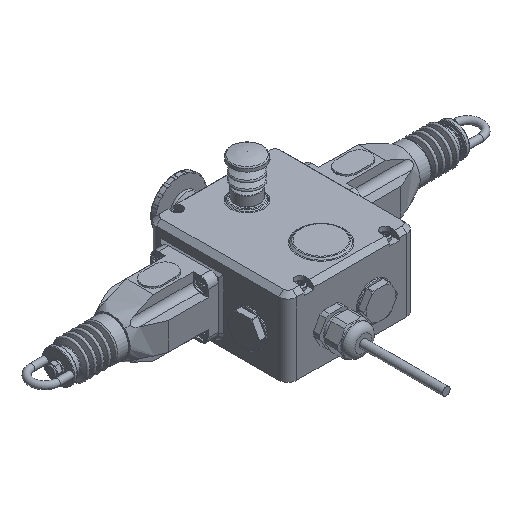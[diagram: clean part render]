
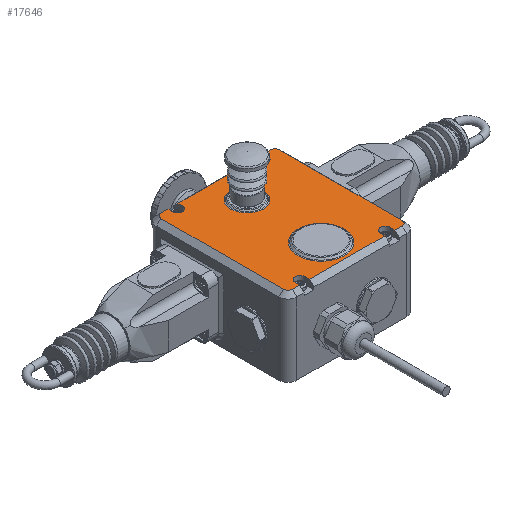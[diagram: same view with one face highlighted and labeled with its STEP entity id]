
A CAD part, isometric view. The second image highlights one B-rep face of the part: STEP entity #17646.
In plain terms, the highlighted planar face has unit normal (0, 0, 1).
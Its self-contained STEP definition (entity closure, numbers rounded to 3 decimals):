
#434=LINE('',#24647,#1388);
#440=LINE('',#24661,#1394);
#442=LINE('',#24665,#1396);
#448=LINE('',#24679,#1402);
#511=LINE('',#24881,#1465);
#515=LINE('',#24891,#1469);
#518=LINE('',#24899,#1472);
#521=LINE('',#24907,#1475);
#522=LINE('',#24915,#1476);
#523=LINE('',#24917,#1477);
#524=LINE('',#24921,#1478);
#525=LINE('',#24922,#1479);
#526=LINE('',#24926,#1480);
#527=LINE('',#24927,#1481);
#528=LINE('',#24931,#1482);
#529=LINE('',#24932,#1483);
#1388=VECTOR('',#20299,1000.);
#1394=VECTOR('',#20307,1000.);
#1396=VECTOR('',#20311,1000.);
#1402=VECTOR('',#20319,1000.);
#1465=VECTOR('',#20486,1000.);
#1469=VECTOR('',#20496,1000.);
#1472=VECTOR('',#20505,1000.);
#1475=VECTOR('',#20514,1000.);
#1476=VECTOR('',#20525,1000.);
#1477=VECTOR('',#20526,1000.);
#1478=VECTOR('',#20529,1000.);
#1479=VECTOR('',#20530,1000.);
#1480=VECTOR('',#20533,1000.);
#1481=VECTOR('',#20534,1000.);
#1482=VECTOR('',#20537,1000.);
#1483=VECTOR('',#20538,1000.);
#2235=PLANE('',#18600);
#3259=ORIENTED_EDGE('',*,*,#6728,.T.);
#3260=ORIENTED_EDGE('',*,*,#6729,.T.);
#3261=ORIENTED_EDGE('',*,*,#6730,.F.);
#3262=ORIENTED_EDGE('',*,*,#6602,.T.);
#3263=ORIENTED_EDGE('',*,*,#6727,.T.);
#3264=ORIENTED_EDGE('',*,*,#6713,.T.);
#3265=ORIENTED_EDGE('',*,*,#6716,.T.);
#3266=ORIENTED_EDGE('',*,*,#6718,.T.);
#3267=ORIENTED_EDGE('',*,*,#6731,.F.);
#3268=ORIENTED_EDGE('',*,*,#6732,.T.);
#3269=ORIENTED_EDGE('',*,*,#6733,.F.);
#3270=ORIENTED_EDGE('',*,*,#6600,.T.);
#3271=ORIENTED_EDGE('',*,*,#6734,.F.);
#3272=ORIENTED_EDGE('',*,*,#6735,.T.);
#3273=ORIENTED_EDGE('',*,*,#6736,.F.);
#3274=ORIENTED_EDGE('',*,*,#6594,.T.);
#3275=ORIENTED_EDGE('',*,*,#6720,.T.);
#3276=ORIENTED_EDGE('',*,*,#6722,.T.);
#3277=ORIENTED_EDGE('',*,*,#6724,.T.);
#3278=ORIENTED_EDGE('',*,*,#6726,.T.);
#3279=ORIENTED_EDGE('',*,*,#6737,.F.);
#3280=ORIENTED_EDGE('',*,*,#6738,.T.);
#3281=ORIENTED_EDGE('',*,*,#6739,.F.);
#3282=ORIENTED_EDGE('',*,*,#6608,.T.);
#3283=ORIENTED_EDGE('',*,*,#6740,.F.);
#3284=ORIENTED_EDGE('',*,*,#6741,.T.);
#6594=EDGE_CURVE('',#8339,#8340,#434,.F.);
#6600=EDGE_CURVE('',#8346,#8345,#440,.F.);
#6602=EDGE_CURVE('',#8347,#8348,#442,.F.);
#6608=EDGE_CURVE('',#8354,#8353,#448,.F.);
#6713=EDGE_CURVE('',#8441,#8440,#511,.F.);
#6716=EDGE_CURVE('',#8440,#8442,#9410,.T.);
#6718=EDGE_CURVE('',#8442,#8443,#515,.F.);
#6720=EDGE_CURVE('',#8340,#8444,#9411,.T.);
#6722=EDGE_CURVE('',#8444,#8445,#518,.F.);
#6724=EDGE_CURVE('',#8445,#8446,#9412,.T.);
#6726=EDGE_CURVE('',#8446,#8447,#521,.F.);
#6727=EDGE_CURVE('',#8348,#8441,#9413,.T.);
#6728=EDGE_CURVE('',#8448,#8448,#9414,.T.);
#6729=EDGE_CURVE('',#8449,#8449,#9415,.T.);
#6730=EDGE_CURVE('',#8347,#8450,#522,.T.);
#6731=EDGE_CURVE('',#8451,#8443,#523,.T.);
#6732=EDGE_CURVE('',#8451,#8452,#9416,.F.);
#6733=EDGE_CURVE('',#8346,#8452,#524,.T.);
#6734=EDGE_CURVE('',#8453,#8345,#525,.T.);
#6735=EDGE_CURVE('',#8453,#8454,#9417,.F.);
#6736=EDGE_CURVE('',#8339,#8454,#526,.T.);
#6737=EDGE_CURVE('',#8455,#8447,#527,.T.);
#6738=EDGE_CURVE('',#8455,#8456,#9418,.F.);
#6739=EDGE_CURVE('',#8354,#8456,#528,.T.);
#6740=EDGE_CURVE('',#8457,#8353,#529,.T.);
#6741=EDGE_CURVE('',#8457,#8450,#9419,.F.);
#8339=VERTEX_POINT('',#24648);
#8340=VERTEX_POINT('',#24649);
#8345=VERTEX_POINT('',#24660);
#8346=VERTEX_POINT('',#24662);
#8347=VERTEX_POINT('',#24666);
#8348=VERTEX_POINT('',#24667);
#8353=VERTEX_POINT('',#24678);
#8354=VERTEX_POINT('',#24680);
#8440=VERTEX_POINT('',#24880);
#8441=VERTEX_POINT('',#24882);
#8442=VERTEX_POINT('',#24886);
#8443=VERTEX_POINT('',#24890);
#8444=VERTEX_POINT('',#24894);
#8445=VERTEX_POINT('',#24898);
#8446=VERTEX_POINT('',#24902);
#8447=VERTEX_POINT('',#24906);
#8448=VERTEX_POINT('',#24912);
#8449=VERTEX_POINT('',#24914);
#8450=VERTEX_POINT('',#24916);
#8451=VERTEX_POINT('',#24918);
#8452=VERTEX_POINT('',#24920);
#8453=VERTEX_POINT('',#24923);
#8454=VERTEX_POINT('',#24925);
#8455=VERTEX_POINT('',#24928);
#8456=VERTEX_POINT('',#24930);
#8457=VERTEX_POINT('',#24933);
#9410=CIRCLE('',#18590,3.5);
#9411=CIRCLE('',#18593,3.5);
#9412=CIRCLE('',#18596,3.5);
#9413=CIRCLE('',#18599,3.5);
#9414=CIRCLE('',#18601,12.714);
#9415=CIRCLE('',#18602,18.114);
#9416=CIRCLE('',#18603,3.9);
#9417=CIRCLE('',#18604,3.9);
#9418=CIRCLE('',#18605,3.9);
#9419=CIRCLE('',#18606,3.9);
#10007=EDGE_LOOP('',(#3259));
#10008=EDGE_LOOP('',(#3260));
#10009=EDGE_LOOP('',(#3261,#3262,#3263,#3264,#3265,#3266,#3267,#3268,#3269,
#3270,#3271,#3272,#3273,#3274,#3275,#3276,#3277,#3278,#3279,#3280,#3281,
#3282,#3283,#3284));
#11025=FACE_BOUND('',#10007,.T.);
#11026=FACE_BOUND('',#10008,.T.);
#11027=FACE_BOUND('',#10009,.T.);
#17646=ADVANCED_FACE('',(#11025,#11026,#11027),#2235,.T.);
#18590=AXIS2_PLACEMENT_3D('',#24887,#20491,#20492);
#18593=AXIS2_PLACEMENT_3D('',#24895,#20500,#20501);
#18596=AXIS2_PLACEMENT_3D('',#24903,#20509,#20510);
#18599=AXIS2_PLACEMENT_3D('',#24909,#20517,#20518);
#18600=AXIS2_PLACEMENT_3D('',#24910,#20519,#20520);
#18601=AXIS2_PLACEMENT_3D('',#24911,#20521,#20522);
#18602=AXIS2_PLACEMENT_3D('',#24913,#20523,#20524);
#18603=AXIS2_PLACEMENT_3D('',#24919,#20527,#20528);
#18604=AXIS2_PLACEMENT_3D('',#24924,#20531,#20532);
#18605=AXIS2_PLACEMENT_3D('',#24929,#20535,#20536);
#18606=AXIS2_PLACEMENT_3D('',#24934,#20539,#20540);
#20299=DIRECTION('',(-1.,0.,0.));
#20307=DIRECTION('',(-1.,0.,0.));
#20311=DIRECTION('',(1.,0.,0.));
#20319=DIRECTION('',(1.,0.,0.));
#20486=DIRECTION('',(0.,1.,0.));
#20491=DIRECTION('',(0.,0.,1.));
#20492=DIRECTION('',(1.,0.,0.));
#20496=DIRECTION('',(-1.,0.,0.));
#20500=DIRECTION('',(0.,0.,1.));
#20501=DIRECTION('',(1.,0.,0.));
#20505=DIRECTION('',(0.,-1.,0.));
#20509=DIRECTION('',(0.,0.,1.));
#20510=DIRECTION('',(1.,0.,0.));
#20514=DIRECTION('',(1.,0.,0.));
#20517=DIRECTION('',(0.,0.,1.));
#20518=DIRECTION('',(1.,0.,0.));
#20519=DIRECTION('',(0.,0.,1.));
#20520=DIRECTION('',(1.,0.,0.));
#20521=DIRECTION('',(0.,0.,-1.));
#20522=DIRECTION('',(-1.,0.,0.));
#20523=DIRECTION('',(0.,0.,-1.));
#20524=DIRECTION('',(-1.,0.,0.));
#20525=DIRECTION('',(0.,-1.,0.));
#20526=DIRECTION('',(0.,-1.,0.));
#20527=DIRECTION('',(0.,0.,1.));
#20528=DIRECTION('',(1.,0.,0.));
#20529=DIRECTION('',(0.,1.,0.));
#20530=DIRECTION('',(0.,-1.,0.));
#20531=DIRECTION('',(0.,0.,1.));
#20532=DIRECTION('',(1.,0.,0.));
#20533=DIRECTION('',(0.,1.,0.));
#20534=DIRECTION('',(0.,1.,0.));
#20535=DIRECTION('',(0.,0.,1.));
#20536=DIRECTION('',(1.,0.,0.));
#20537=DIRECTION('',(0.,-1.,0.));
#20538=DIRECTION('',(0.,1.,0.));
#20539=DIRECTION('',(0.,0.,1.));
#20540=DIRECTION('',(1.,0.,0.));
#24647=CARTESIAN_POINT('',(-43.,3.5,60.));
#24648=CARTESIAN_POINT('',(37.4,3.5,60.));
#24649=CARTESIAN_POINT('',(43.,3.5,60.));
#24660=CARTESIAN_POINT('',(29.6,3.5,60.));
#24661=CARTESIAN_POINT('',(-43.,3.5,60.));
#24662=CARTESIAN_POINT('',(-29.6,3.5,60.));
#24665=CARTESIAN_POINT('',(43.,106.5,60.));
#24666=CARTESIAN_POINT('',(-37.4,106.5,60.));
#24667=CARTESIAN_POINT('',(-43.,106.5,60.));
#24678=CARTESIAN_POINT('',(-29.6,106.5,60.));
#24679=CARTESIAN_POINT('',(43.,106.5,60.));
#24680=CARTESIAN_POINT('',(29.6,106.5,60.));
#24880=CARTESIAN_POINT('',(-46.5,7.,60.));
#24881=CARTESIAN_POINT('',(-46.5,103.,60.));
#24882=CARTESIAN_POINT('',(-46.5,103.,60.));
#24886=CARTESIAN_POINT('',(-43.,3.5,60.));
#24887=CARTESIAN_POINT('',(-43.,7.,60.));
#24890=CARTESIAN_POINT('',(-37.4,3.5,60.));
#24891=CARTESIAN_POINT('',(-43.,3.5,60.));
#24894=CARTESIAN_POINT('',(46.5,7.,60.));
#24895=CARTESIAN_POINT('',(43.,7.,60.));
#24898=CARTESIAN_POINT('',(46.5,103.,60.));
#24899=CARTESIAN_POINT('',(46.5,7.,60.));
#24902=CARTESIAN_POINT('',(43.,106.5,60.));
#24903=CARTESIAN_POINT('',(43.,103.,60.));
#24906=CARTESIAN_POINT('',(37.4,106.5,60.));
#24907=CARTESIAN_POINT('',(43.,106.5,60.));
#24909=CARTESIAN_POINT('',(-43.,103.,60.));
#24910=CARTESIAN_POINT('',(-43.,7.,60.));
#24911=CARTESIAN_POINT('',(0.,82.,60.));
#24912=CARTESIAN_POINT('',(-12.714,82.,60.));
#24913=CARTESIAN_POINT('',(0.,24.,60.));
#24914=CARTESIAN_POINT('',(-18.114,24.,60.));
#24915=CARTESIAN_POINT('',(-37.4,7.,60.));
#24916=CARTESIAN_POINT('',(-37.4,103.,60.));
#24917=CARTESIAN_POINT('',(-37.4,7.,60.));
#24918=CARTESIAN_POINT('',(-37.4,7.,60.));
#24919=CARTESIAN_POINT('',(-33.5,7.,60.));
#24920=CARTESIAN_POINT('',(-29.6,7.,60.));
#24921=CARTESIAN_POINT('',(-29.6,7.,60.));
#24922=CARTESIAN_POINT('',(29.6,7.,60.));
#24923=CARTESIAN_POINT('',(29.6,7.,60.));
#24924=CARTESIAN_POINT('',(33.5,7.,60.));
#24925=CARTESIAN_POINT('',(37.4,7.,60.));
#24926=CARTESIAN_POINT('',(37.4,7.,60.));
#24927=CARTESIAN_POINT('',(37.4,7.,60.));
#24928=CARTESIAN_POINT('',(37.4,103.,60.));
#24929=CARTESIAN_POINT('',(33.5,103.,60.));
#24930=CARTESIAN_POINT('',(29.6,103.,60.));
#24931=CARTESIAN_POINT('',(29.6,7.,60.));
#24932=CARTESIAN_POINT('',(-29.6,7.,60.));
#24933=CARTESIAN_POINT('',(-29.6,103.,60.));
#24934=CARTESIAN_POINT('',(-33.5,103.,60.));
